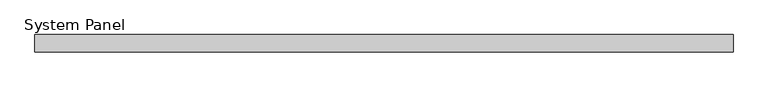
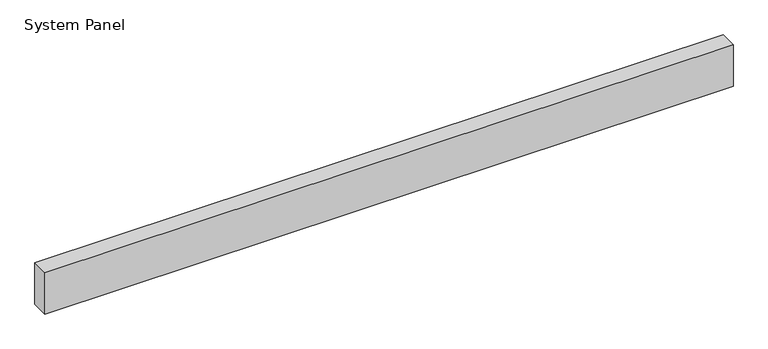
"""IFC4 building model written with IfcOpenShell, lengths in millimetres: plate geometry, System Panel : MetecnoPanel 150mm Horizontal - Plain Astro - PIR."""

from ifc_helpers import new_model, si_unit, origin, origin_with_axes, place, context, project, spatial, polyline, outline, extrude, source, transform, mapped, element, save


def system_panel_3237bd97(model_context):
    return source(origin(), model_context, "Body", "SweptSolid", [
        extrude(outline(polyline([(2990.0, -150.0), (-2990.0, -150.0), (-2990.0, 0.0), (2990.0, 0.0), (2990.0, -150.0)])), origin_with_axes(), (0.0, 0.0, 1.0), 379.9704237),
    ])


if __name__ == "__main__":
    model = new_model("IFC4")
    model_context = context("Model", 3, world=origin())
    ifc_project = project(units=[si_unit("LENGTHUNIT", "METRE", prefix="MILLI")], contexts=[model_context])
    site = spatial("IfcSite", under=ifc_project)
    building = spatial("IfcBuilding", under=site)
    placement = place(None, origin())
    system_panel_shape = system_panel_3237bd97(model_context)
    element("IfcPlate", 1, ObjectType="System Panel : MetecnoPanel 150mm Horizontal - Plain Astro - PIR", at=placement, inside=building, context=model_context, shape_type="MappedRepresentation", body=[
        mapped(system_panel_shape, transform((0.0, 0.0, 0.0), x_axis=(1.0, 0.0, 0.0), y_axis=(0.0, 1.0, 0.0), z_axis=(0.0, 0.0, 1.0))),
    ])
    save(model, "model.ifc")
